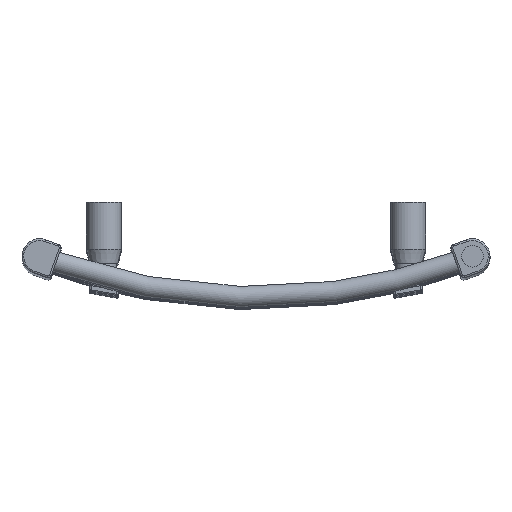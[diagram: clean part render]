
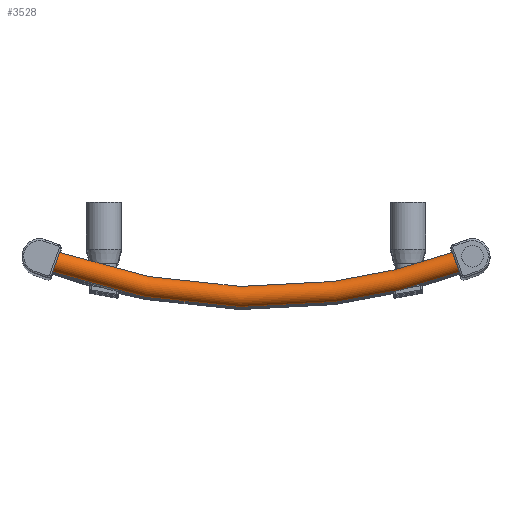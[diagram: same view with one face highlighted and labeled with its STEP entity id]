
A CAD part, top view. The second image highlights one B-rep face of the part: STEP entity #3528.
In plain terms, the highlighted toroidal (fillet/blend) face has major radius 505 mm and minor radius 9 mm.
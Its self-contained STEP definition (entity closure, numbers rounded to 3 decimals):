
#3501=CARTESIAN_POINT('',(0.,505.,1086.));
#3502=DIRECTION('',(0.,0.,1.0));
#3503=DIRECTION('',(1.0,0.0,0.0));
#3504=AXIS2_PLACEMENT_3D('',#3501,#3502,#3503);
#3505=TOROIDAL_SURFACE('',#3504,505.,9.);
#3506=CARTESIAN_POINT('',(167.839,38.26,1086.));
#3507=VERTEX_POINT('',#3506);
#3508=CARTESIAN_POINT('',(170.885,29.791,1086.));
#3509=DIRECTION('',(0.941,0.338,0.));
#3510=DIRECTION('',(0.338,-0.941,0.));
#3511=AXIS2_PLACEMENT_3D('',#3508,#3509,#3510);
#3512=CIRCLE('',#3511,9.);
#3513=EDGE_CURVE('',#3507,#3507,#3512,.T.);
#3514=ORIENTED_EDGE('',*,*,#3513,.F.);
#3515=EDGE_LOOP('',(#3514));
#3516=FACE_OUTER_BOUND('',#3515,.T.);
#3517=CARTESIAN_POINT('',(-167.839,38.26,1086.));
#3518=VERTEX_POINT('',#3517);
#3519=CARTESIAN_POINT('',(-170.885,29.791,1086.));
#3520=DIRECTION('',(-0.941,0.338,0.));
#3521=DIRECTION('',(-0.338,-0.941,0.));
#3522=AXIS2_PLACEMENT_3D('',#3519,#3520,#3521);
#3523=CIRCLE('',#3522,9.);
#3524=EDGE_CURVE('',#3518,#3518,#3523,.T.);
#3525=ORIENTED_EDGE('',*,*,#3524,.F.);
#3526=EDGE_LOOP('',(#3525));
#3527=FACE_BOUND('',#3526,.T.);
#3528=ADVANCED_FACE('',(#3516,#3527),#3505,.T.);
